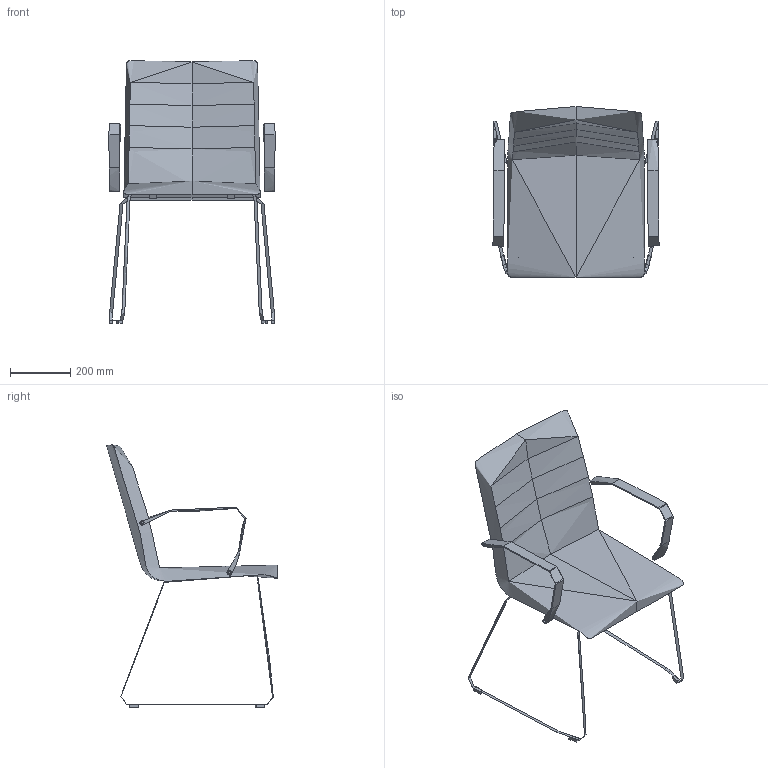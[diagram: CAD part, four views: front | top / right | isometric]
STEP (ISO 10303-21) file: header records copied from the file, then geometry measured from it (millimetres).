
FILE_DESCRIPTION(/* description */ (''),/* implementation_level */ '2;1');
FILE_NAME(/* name */ 'OS9863~1',/* time_stamp */ '2017-08-07T21:13:45+02:00',/* author */ (''),/* organization */ (''),/* preprocessor_version */ 'ST-DEVELOPER v15',/* originating_system */ '',/* authorisation */ '');
FILE_SCHEMA (('CONFIG_CONTROL_DESIGN'));
Length unit declared in the file: millimetre
Products named in the file (1): Document
Bounding box: 553.21 x 568.66 x 874.61 mm (x, y, z)
Volume: 17768750.9 mm3; surface area: 1196238.7 mm2
Topology: 10 solids, 10 shells, 180 faces, 404 edges, 255 vertices
Faces by surface type: bspline 104, plane 76
Entity records: 11573 total; most frequent: CARTESIAN_POINT 9013, ORIENTED_EDGE 802, EDGE_CURVE 401, VERTEX_POINT 251, EDGE_LOOP 192, ADVANCED_FACE 180, FACE_OUTER_BOUND 180, B_SPLINE_CURVE_WITH_KNOTS 179
